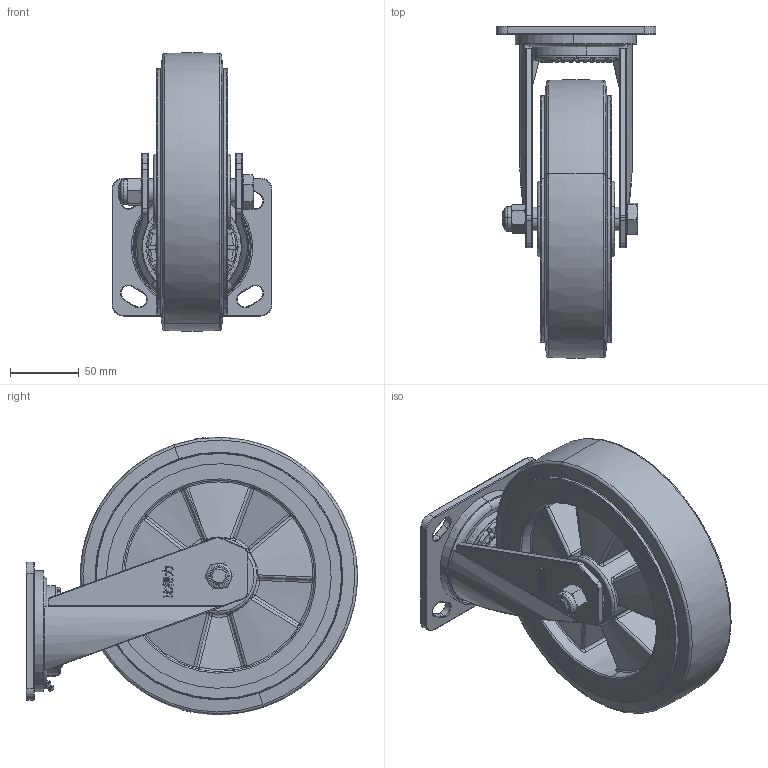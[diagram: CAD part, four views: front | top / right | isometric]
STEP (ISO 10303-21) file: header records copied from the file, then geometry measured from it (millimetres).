
FILE_DESCRIPTION (( 'STEP AP203' ), '1' );
FILE_NAME ('8寸重载型无刹万向轮.STEP', '2023-03-06T09:09:31', ( 'amidn' ), ( '' ), 'SwSTEP 2.0', 'SolidWorks 2018', '' );
FILE_SCHEMA (( 'CONFIG_CONTROL_DESIGN' ));
Length unit declared in the file: millimetre
Products named in the file (13): prevailing trq nut style 1 insert fine_din_DIN EN ISO 10512 - M12x1.5 - S.STEP; 8寸重载型无刹万向轮; 6渡紩攫1; 8____________________.STEP; 8________.STEP; 5________________2.STEP; 6渡紩攫2; 8寸重载型无刹万向轮.STEP; 5________ ____.STEP; 5________________.STEP; 5__________________.STEP; high strength hex head bolt_din_DIN 6914 - M12 x 90 x 23-S.STEP; 5________ ______.STEP
Assembly tree (12 placements, depth 3):
  8寸重载型无刹万向轮
    8寸重载型无刹万向轮.STEP
      8____________________.STEP
      5__________________.STEP
      5________ ______.STEP
      5________ ____.STEP
      5________________.STEP
      5________________2.STEP
      8________.STEP
      prevailing trq nut style 1 insert fine_din_DIN EN ISO 10512 - M12x1.5 - S.STEP
      high strength hex head bolt_din_DIN 6914 - M12 x 90 x 23-S.STEP
    6渡紩攫1
    6渡紩攫2
Bounding box: 116 x 240.93 x 201.83 mm (x, y, z)
Volume: 1285288.5 mm3; surface area: 272200.8 mm2
Topology: 82 solids, 82 shells, 1224 faces, 3079 edges, 1885 vertices
Faces by surface type: cylinder 276, plane 252, sphere 206, torus 183, bspline 161, cone 146
Entity records: 47333 total; most frequent: CARTESIAN_POINT 19777, DIRECTION 5567, ORIENTED_EDGE 5358, EDGE_CURVE 2679, AXIS2_PLACEMENT_3D 2380, VERTEX_POINT 1659, CIRCLE 1301, EDGE_LOOP 1292
